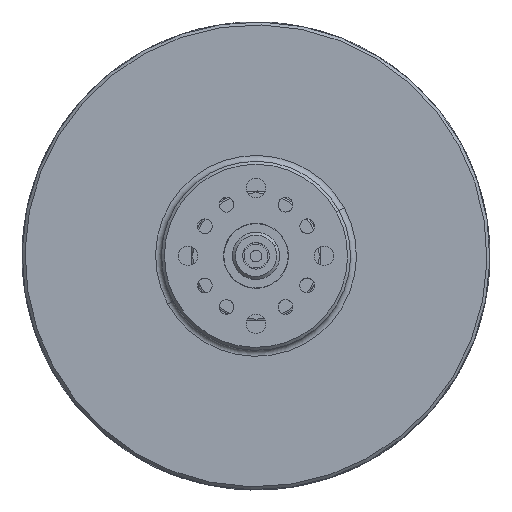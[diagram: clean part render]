
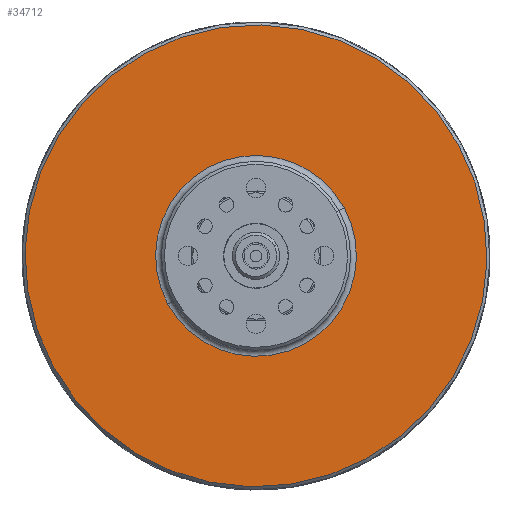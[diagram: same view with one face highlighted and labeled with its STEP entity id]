
A CAD part, top view. The second image highlights one B-rep face of the part: STEP entity #34712.
In plain terms, the highlighted planar face has unit normal (0, 0, 1).
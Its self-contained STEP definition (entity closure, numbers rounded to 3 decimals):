
#2686 = CIRCLE ( 'NONE', #75749, 39.1 ) ;
#5837 = FACE_BOUND ( 'NONE', #57835, .T. ) ;
#9190 = EDGE_CURVE ( 'NONE', #62517, #47274, #2686, .T. ) ;
#10000 = ORIENTED_EDGE ( 'NONE', *, *, #12799, .T. ) ;
#12799 = EDGE_CURVE ( 'NONE', #47274, #62517, #26522, .T. ) ;
#12951 = EDGE_CURVE ( 'NONE', #17408, #67630, #19250, .T. ) ;
#16605 = DIRECTION ( 'NONE',  ( 0., 0., 1. ) ) ;
#16917 = DIRECTION ( 'NONE',  ( 1., 0., 0. ) ) ;
#17408 = VERTEX_POINT ( 'NONE', #38543 ) ;
#19250 = CIRCLE ( 'NONE', #28072, 17. ) ;
#20015 = CARTESIAN_POINT ( 'NONE',  ( -14.919, -8.15, 31.5 ) ) ;
#23805 = CARTESIAN_POINT ( 'NONE',  ( 0., 0., 31.5 ) ) ;
#23898 = ORIENTED_EDGE ( 'NONE', *, *, #56502, .F. ) ;
#24060 = FACE_OUTER_BOUND ( 'NONE', #67216, .T. ) ;
#24835 = CIRCLE ( 'NONE', #68157, 17. ) ;
#26522 = CIRCLE ( 'NONE', #28972, 39.1 ) ;
#28072 = AXIS2_PLACEMENT_3D ( 'NONE', #23805, #47420, #65260 ) ;
#28211 = DIRECTION ( 'NONE',  ( 0., 0., 1. ) ) ;
#28972 = AXIS2_PLACEMENT_3D ( 'NONE', #46814, #16605, #71247 ) ;
#29496 = DIRECTION ( 'NONE',  ( 1., 0., 0. ) ) ;
#30303 = AXIS2_PLACEMENT_3D ( 'NONE', #47682, #48815, #29496 ) ;
#34712 = ADVANCED_FACE ( 'NONE', ( #24060, #5837 ), #36827, .T. ) ;
#36105 = ORIENTED_EDGE ( 'NONE', *, *, #9190, .T. ) ;
#36629 = CARTESIAN_POINT ( 'NONE',  ( -34.313, -18.746, 31.5 ) ) ;
#36661 = DIRECTION ( 'NONE',  ( 1., 0., 0. ) ) ;
#36827 = PLANE ( 'NONE',  #30303 ) ;
#38543 = CARTESIAN_POINT ( 'NONE',  ( 14.919, 8.15, 31.5 ) ) ;
#45263 = ORIENTED_EDGE ( 'NONE', *, *, #12951, .F. ) ;
#46814 = CARTESIAN_POINT ( 'NONE',  ( 0., 0., 31.5 ) ) ;
#47274 = VERTEX_POINT ( 'NONE', #57840 ) ;
#47420 = DIRECTION ( 'NONE',  ( 0., 0., 1. ) ) ;
#47682 = CARTESIAN_POINT ( 'NONE',  ( -17., 0., 31.5 ) ) ;
#48815 = DIRECTION ( 'NONE',  ( 0., 0., 1. ) ) ;
#51038 = CARTESIAN_POINT ( 'NONE',  ( 0., 0., 31.5 ) ) ;
#56502 = EDGE_CURVE ( 'NONE', #67630, #17408, #24835, .T. ) ;
#57835 = EDGE_LOOP ( 'NONE', ( #23898, #45263 ) ) ;
#57840 = CARTESIAN_POINT ( 'NONE',  ( 34.313, 18.746, 31.5 ) ) ;
#62517 = VERTEX_POINT ( 'NONE', #36629 ) ;
#63822 = DIRECTION ( 'NONE',  ( 0., 0., 1. ) ) ;
#65260 = DIRECTION ( 'NONE',  ( 1., 0., 0. ) ) ;
#67216 = EDGE_LOOP ( 'NONE', ( #10000, #36105 ) ) ;
#67630 = VERTEX_POINT ( 'NONE', #20015 ) ;
#68157 = AXIS2_PLACEMENT_3D ( 'NONE', #51038, #28211, #36661 ) ;
#70026 = CARTESIAN_POINT ( 'NONE',  ( 0., 0., 31.5 ) ) ;
#71247 = DIRECTION ( 'NONE',  ( 1., 0., 0. ) ) ;
#75749 = AXIS2_PLACEMENT_3D ( 'NONE', #70026, #63822, #16917 ) ;
